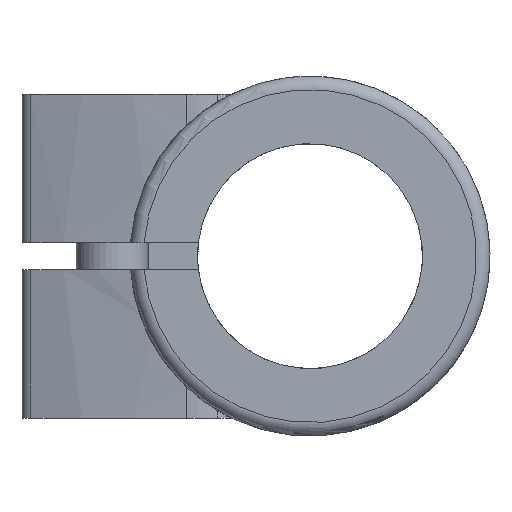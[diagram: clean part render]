
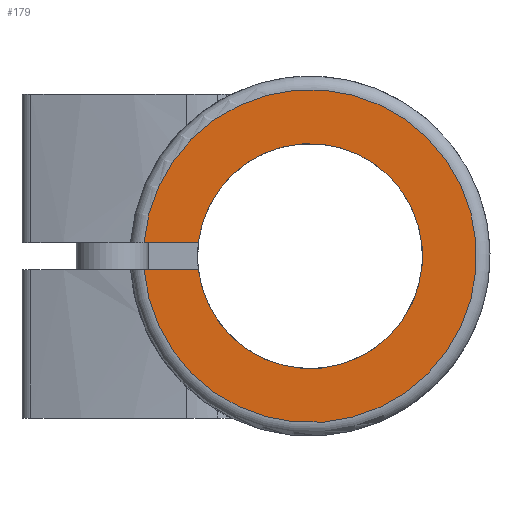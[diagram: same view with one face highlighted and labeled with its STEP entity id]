
A CAD part, left-side view. The second image highlights one B-rep face of the part: STEP entity #179.
In plain terms, the highlighted planar face has unit normal (-1, 0, 0).
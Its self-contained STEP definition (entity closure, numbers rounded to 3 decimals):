
#179 = ADVANCED_FACE( '', ( #479 ), #480, .F. );
#479 = FACE_OUTER_BOUND( '', #841, .T. );
#480 = PLANE( '', #842 );
#841 = EDGE_LOOP( '', ( #1858, #1859, #1860, #1861 ) );
#842 = AXIS2_PLACEMENT_3D( '', #1862, #1863, #1864 );
#1858 = ORIENTED_EDGE( '', *, *, #2615, .F. );
#1859 = ORIENTED_EDGE( '', *, *, #2570, .F. );
#1860 = ORIENTED_EDGE( '', *, *, #2652, .F. );
#1861 = ORIENTED_EDGE( '', *, *, #2580, .F. );
#1862 = CARTESIAN_POINT( '', ( 0., 0., 0. ) );
#1863 = DIRECTION( '', ( 1., 0., 0. ) );
#1864 = DIRECTION( '', ( 0., 0., -1. ) );
#2570 = EDGE_CURVE( '', #3206, #3207, #3208, .T. );
#2580 = EDGE_CURVE( '', #3221, #3223, #3224, .T. );
#2615 = EDGE_CURVE( '', #3207, #3221, #3286, .F. );
#2652 = EDGE_CURVE( '', #3223, #3206, #3340, .T. );
#3206 = VERTEX_POINT( '', #4365 );
#3207 = VERTEX_POINT( '', #4366 );
#3208 = LINE( '', #4367, #4368 );
#3221 = VERTEX_POINT( '', #4398 );
#3223 = VERTEX_POINT( '', #4401 );
#3224 = LINE( '', #4402, #4403 );
#3286 = CIRCLE( '', #4607, 12.5 );
#3340 = CIRCLE( '', #4760, 18.5 );
#4365 = CARTESIAN_POINT( '', ( 0., 18.439, -1.5 ) );
#4366 = CARTESIAN_POINT( '', ( 0., 12.41, -1.5 ) );
#4367 = CARTESIAN_POINT( '', ( 0., 0., -1.5 ) );
#4368 = VECTOR( '', #5314, 1000. );
#4398 = CARTESIAN_POINT( '', ( 0., 12.41, 1.5 ) );
#4401 = CARTESIAN_POINT( '', ( 0., 18.439, 1.5 ) );
#4402 = CARTESIAN_POINT( '', ( 0., 0., 1.5 ) );
#4403 = VECTOR( '', #5329, 1000. );
#4607 = AXIS2_PLACEMENT_3D( '', #5377, #5378, #5379 );
#4760 = AXIS2_PLACEMENT_3D( '', #5426, #5427, #5428 );
#5314 = DIRECTION( '', ( 0., -1., 0. ) );
#5329 = DIRECTION( '', ( 0., 1., 0. ) );
#5377 = CARTESIAN_POINT( '', ( 0., 0., 0. ) );
#5378 = DIRECTION( '', ( 1., 0., 0. ) );
#5379 = DIRECTION( '', ( 0., 0., -1. ) );
#5426 = CARTESIAN_POINT( '', ( 0., 0., 0. ) );
#5427 = DIRECTION( '', ( 1., 0., 0. ) );
#5428 = DIRECTION( '', ( 0., 0., -1. ) );
